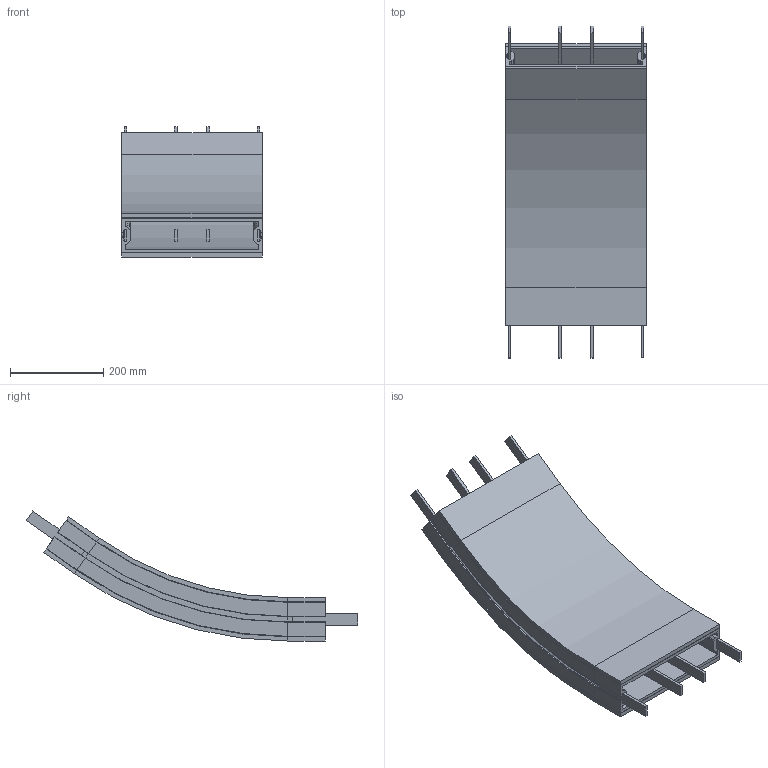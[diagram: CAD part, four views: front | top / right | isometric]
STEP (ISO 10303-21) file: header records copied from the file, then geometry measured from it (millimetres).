
FILE_DESCRIPTION (( 'STEP AP214' ), '1' );
FILE_NAME ('FBBV 35A300R750L80L80.00.step', '2026-05-29T10:33:39', ( '' ), ( '' ), 'SwSTEP 2.0', 'SolidWorks 2024', '' );
FILE_SCHEMA (( 'AUTOMOTIVE_DESIGN' ));
Length unit declared in the file: millimetre
Products named in the file (1): FBBV 35A300R750L80L80.00
Bounding box: 300 x 710.22 x 278.41 mm (x, y, z)
Volume: 6843208.9 mm3; surface area: 1811197.1 mm2
Topology: 11 solids, 11 shells, 375 faces, 845 edges, 492 vertices
Faces by surface type: plane 278, cone 66, cylinder 26, torus 5
Entity records: 10191 total; most frequent: DIRECTION 1724, CARTESIAN_POINT 1713, ORIENTED_EDGE 1690, EDGE_CURVE 845, VECTOR 718, LINE 718, AXIS2_PLACEMENT_3D 503, VERTEX_POINT 492
